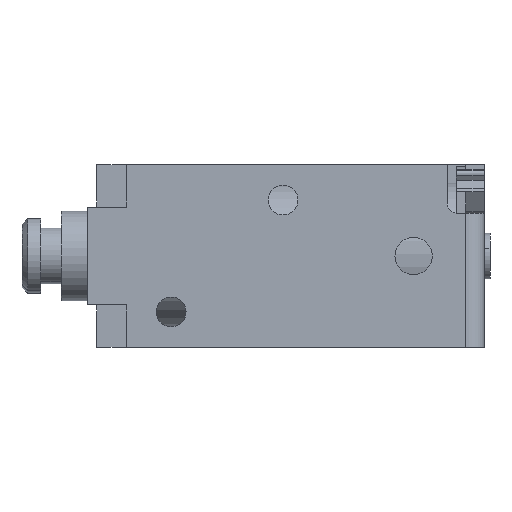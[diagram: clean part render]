
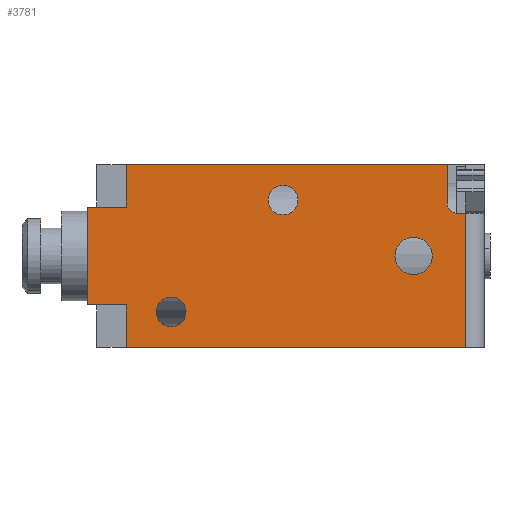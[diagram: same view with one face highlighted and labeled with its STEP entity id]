
A CAD part, left-side view. The second image highlights one B-rep face of the part: STEP entity #3781.
In plain terms, the highlighted planar face has unit normal (-1, 0, 0) as drawn and (0, 0, -1) by its records, which use the part's own axes.
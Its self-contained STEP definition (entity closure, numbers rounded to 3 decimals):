
#153 = DIRECTION ( 'NONE',  ( 0., 0., -1. ) ) ;
#193 = AXIS2_PLACEMENT_3D ( 'NONE', #3233, #1051, #3599 ) ;
#194 = VERTEX_POINT ( 'NONE', #3569 ) ;
#210 = CARTESIAN_POINT ( 'NONE',  ( -4.9, -6.458, -10.8 ) ) ;
#219 = CIRCLE ( 'NONE', #4243, 0.8 ) ;
#365 = VECTOR ( 'NONE', #2684, 1000. ) ;
#395 = PLANE ( 'NONE',  #2160 ) ;
#412 = CARTESIAN_POINT ( 'NONE',  ( -2.3, -6.458, -10.8 ) ) ;
#416 = VERTEX_POINT ( 'NONE', #1755 ) ;
#418 = VECTOR ( 'NONE', #4314, 1000. ) ;
#470 = EDGE_LOOP ( 'NONE', ( #3900, #1112, #4142, #1363, #2089, #762, #1146, #1171, #880, #4080, #2267 ) ) ;
#474 = LINE ( 'NONE', #2326, #365 ) ;
#587 = LINE ( 'NONE', #2924, #4380 ) ;
#645 = CARTESIAN_POINT ( 'NONE',  ( -4.9, 12.842, -10.8 ) ) ;
#750 = FACE_OUTER_BOUND ( 'NONE', #470, .T. ) ;
#762 = ORIENTED_EDGE ( 'NONE', *, *, #2892, .F. ) ;
#770 = DIRECTION ( 'NONE',  ( -1., 0., 0. ) ) ;
#771 = CIRCLE ( 'NONE', #193, 0.8 ) ;
#833 = DIRECTION ( 'NONE',  ( 0., 0., -1. ) ) ;
#854 = EDGE_CURVE ( 'NONE', #4107, #2577, #3698, .T. ) ;
#880 = ORIENTED_EDGE ( 'NONE', *, *, #2410, .F. ) ;
#928 = EDGE_CURVE ( 'NONE', #4224, #4572, #4242, .T. ) ;
#1016 = VERTEX_POINT ( 'NONE', #2259 ) ;
#1049 = EDGE_CURVE ( 'NONE', #194, #416, #219, .T. ) ;
#1051 = DIRECTION ( 'NONE',  ( 0., 0., -1. ) ) ;
#1097 = LINE ( 'NONE', #210, #3901 ) ;
#1105 = ORIENTED_EDGE ( 'NONE', *, *, #4212, .F. ) ;
#1112 = ORIENTED_EDGE ( 'NONE', *, *, #3109, .T. ) ;
#1146 = ORIENTED_EDGE ( 'NONE', *, *, #4553, .F. ) ;
#1171 = ORIENTED_EDGE ( 'NONE', *, *, #4739, .F. ) ;
#1223 = EDGE_LOOP ( 'NONE', ( #1105, #4254 ) ) ;
#1237 = EDGE_CURVE ( 'NONE', #4224, #2907, #3066, .T. ) ;
#1332 = AXIS2_PLACEMENT_3D ( 'NONE', #1343, #3904, #1710 ) ;
#1343 = CARTESIAN_POINT ( 'NONE',  ( -3., 2.342, -10.8 ) ) ;
#1353 = CARTESIAN_POINT ( 'NONE',  ( -3.8, 2.342, -10.8 ) ) ;
#1363 = ORIENTED_EDGE ( 'NONE', *, *, #1237, .T. ) ;
#1376 = ORIENTED_EDGE ( 'NONE', *, *, #1562, .F. ) ;
#1420 = VECTOR ( 'NONE', #4202, 1000. ) ;
#1486 = DIRECTION ( 'NONE',  ( 1., 0., 0. ) ) ;
#1495 = VECTOR ( 'NONE', #4364, 1000. ) ;
#1529 = LINE ( 'NONE', #1994, #1420 ) ;
#1562 = EDGE_CURVE ( 'NONE', #416, #194, #2986, .T. ) ;
#1600 = CARTESIAN_POINT ( 'NONE',  ( -2.625, 12.842, -10.8 ) ) ;
#1710 = DIRECTION ( 'NONE',  ( -1., 0., 0. ) ) ;
#1712 = CIRCLE ( 'NONE', #1332, 0.8 ) ;
#1714 = FACE_BOUND ( 'NONE', #3609, .T. ) ;
#1755 = CARTESIAN_POINT ( 'NONE',  ( 2.2, 8.342, -10.8 ) ) ;
#1836 = VECTOR ( 'NONE', #4556, 1000. ) ;
#1859 = VERTEX_POINT ( 'NONE', #2847 ) ;
#1874 = DIRECTION ( 'NONE',  ( 1., 0., 0. ) ) ;
#1899 = EDGE_CURVE ( 'NONE', #1859, #2857, #771, .T. ) ;
#1994 = CARTESIAN_POINT ( 'NONE',  ( -2.625, 10.742, -10.8 ) ) ;
#2063 = CARTESIAN_POINT ( 'NONE',  ( -2.3, -6.958, -10.8 ) ) ;
#2089 = ORIENTED_EDGE ( 'NONE', *, *, #2757, .F. ) ;
#2100 = CARTESIAN_POINT ( 'NONE',  ( -2.625, 12.842, -10.8 ) ) ;
#2117 = EDGE_CURVE ( 'NONE', #2577, #4107, #4632, .T. ) ;
#2135 = CARTESIAN_POINT ( 'NONE',  ( 4.9, 12.842, -10.8 ) ) ;
#2142 = DIRECTION ( 'NONE',  ( 0., 0., 1. ) ) ;
#2157 = CARTESIAN_POINT ( 'NONE',  ( -2.8, -6.958, -10.8 ) ) ;
#2160 = AXIS2_PLACEMENT_3D ( 'NONE', #4041, #3672, #1486 ) ;
#2177 = CARTESIAN_POINT ( 'NONE',  ( 2.625, 12.842, -10.8 ) ) ;
#2218 = CARTESIAN_POINT ( 'NONE',  ( 4.9, -7.458, -10.8 ) ) ;
#2259 = CARTESIAN_POINT ( 'NONE',  ( 2.625, 10.742, -10.8 ) ) ;
#2267 = ORIENTED_EDGE ( 'NONE', *, *, #2713, .F. ) ;
#2326 = CARTESIAN_POINT ( 'NONE',  ( 2.625, 10.742, -10.8 ) ) ;
#2332 = CARTESIAN_POINT ( 'NONE',  ( 3., 8.342, -10.8 ) ) ;
#2390 = DIRECTION ( 'NONE',  ( 1., 0., 0. ) ) ;
#2410 = EDGE_CURVE ( 'NONE', #3706, #4022, #3437, .T. ) ;
#2474 = CARTESIAN_POINT ( 'NONE',  ( -2.8, -6.458, -10.8 ) ) ;
#2519 = VECTOR ( 'NONE', #770, 1000. ) ;
#2521 = VERTEX_POINT ( 'NONE', #4044 ) ;
#2577 = VERTEX_POINT ( 'NONE', #2963 ) ;
#2660 = AXIS2_PLACEMENT_3D ( 'NONE', #2157, #2142, #1874 ) ;
#2682 = FACE_BOUND ( 'NONE', #2975, .T. ) ;
#2684 = DIRECTION ( 'NONE',  ( -1., 0., 0. ) ) ;
#2692 = DIRECTION ( 'NONE',  ( -1., 0., 0. ) ) ;
#2701 = AXIS2_PLACEMENT_3D ( 'NONE', #3000, #833, #3371 ) ;
#2713 = EDGE_CURVE ( 'NONE', #3511, #1016, #474, .T. ) ;
#2757 = EDGE_CURVE ( 'NONE', #3254, #2907, #1097, .T. ) ;
#2774 = CARTESIAN_POINT ( 'NONE',  ( -2.625, 10.742, -10.8 ) ) ;
#2799 = LINE ( 'NONE', #4171, #1836 ) ;
#2847 = CARTESIAN_POINT ( 'NONE',  ( -2.2, 2.342, -10.8 ) ) ;
#2857 = VERTEX_POINT ( 'NONE', #1353 ) ;
#2892 = EDGE_CURVE ( 'NONE', #2521, #3254, #3315, .T. ) ;
#2907 = VERTEX_POINT ( 'NONE', #2474 ) ;
#2923 = ORIENTED_EDGE ( 'NONE', *, *, #854, .F. ) ;
#2924 = CARTESIAN_POINT ( 'NONE',  ( 2.625, 12.842, -10.8 ) ) ;
#2963 = CARTESIAN_POINT ( 'NONE',  ( -1., -4.658, -10.8 ) ) ;
#2975 = EDGE_LOOP ( 'NONE', ( #3222, #2923 ) ) ;
#2986 = CIRCLE ( 'NONE', #4051, 0.8 ) ;
#3000 = CARTESIAN_POINT ( 'NONE',  ( 0., -4.658, -10.8 ) ) ;
#3066 = CIRCLE ( 'NONE', #2660, 0.5 ) ;
#3095 = EDGE_CURVE ( 'NONE', #1016, #3706, #587, .T. ) ;
#3109 = EDGE_CURVE ( 'NONE', #4708, #4572, #3372, .T. ) ;
#3191 = DIRECTION ( 'NONE',  ( 0., -1., 0. ) ) ;
#3222 = ORIENTED_EDGE ( 'NONE', *, *, #2117, .F. ) ;
#3233 = CARTESIAN_POINT ( 'NONE',  ( -3., 2.342, -10.8 ) ) ;
#3254 = VERTEX_POINT ( 'NONE', #3759 ) ;
#3277 = EDGE_CURVE ( 'NONE', #3511, #4708, #2799, .T. ) ;
#3315 = LINE ( 'NONE', #645, #418 ) ;
#3339 = ORIENTED_EDGE ( 'NONE', *, *, #1049, .F. ) ;
#3371 = DIRECTION ( 'NONE',  ( -1., 0., 0. ) ) ;
#3372 = LINE ( 'NONE', #2218, #2519 ) ;
#3437 = LINE ( 'NONE', #2135, #1495 ) ;
#3464 = CARTESIAN_POINT ( 'NONE',  ( 1., -4.658, -10.8 ) ) ;
#3479 = VERTEX_POINT ( 'NONE', #2774 ) ;
#3511 = VERTEX_POINT ( 'NONE', #4291 ) ;
#3524 = VECTOR ( 'NONE', #3191, 1000. ) ;
#3530 = CARTESIAN_POINT ( 'NONE',  ( 4.9, -7.458, -10.8 ) ) ;
#3569 = CARTESIAN_POINT ( 'NONE',  ( 3.8, 8.342, -10.8 ) ) ;
#3599 = DIRECTION ( 'NONE',  ( -1., 0., 0. ) ) ;
#3609 = EDGE_LOOP ( 'NONE', ( #1376, #3339 ) ) ;
#3672 = DIRECTION ( 'NONE',  ( 0., 0., 1. ) ) ;
#3698 = CIRCLE ( 'NONE', #4341, 1. ) ;
#3706 = VERTEX_POINT ( 'NONE', #2177 ) ;
#3759 = CARTESIAN_POINT ( 'NONE',  ( -4.9, -6.458, -10.8 ) ) ;
#3781 = ADVANCED_FACE ( 'NONE', ( #2682, #1714, #4675, #750 ), #395, .F. ) ;
#3900 = ORIENTED_EDGE ( 'NONE', *, *, #3277, .T. ) ;
#3901 = VECTOR ( 'NONE', #2390, 1000. ) ;
#3904 = DIRECTION ( 'NONE',  ( 0., 0., -1. ) ) ;
#3992 = DIRECTION ( 'NONE',  ( -1., 0., 0. ) ) ;
#4022 = VERTEX_POINT ( 'NONE', #1600 ) ;
#4041 = CARTESIAN_POINT ( 'NONE',  ( 4.9, 12.842, -10.8 ) ) ;
#4044 = CARTESIAN_POINT ( 'NONE',  ( -4.9, 10.742, -10.8 ) ) ;
#4051 = AXIS2_PLACEMENT_3D ( 'NONE', #2332, #153, #2692 ) ;
#4054 = DIRECTION ( 'NONE',  ( 0., 0., -1. ) ) ;
#4071 = CARTESIAN_POINT ( 'NONE',  ( 3., 8.342, -10.8 ) ) ;
#4080 = ORIENTED_EDGE ( 'NONE', *, *, #3095, .F. ) ;
#4107 = VERTEX_POINT ( 'NONE', #3464 ) ;
#4125 = DIRECTION ( 'NONE',  ( -1., 0., 0. ) ) ;
#4142 = ORIENTED_EDGE ( 'NONE', *, *, #928, .F. ) ;
#4171 = CARTESIAN_POINT ( 'NONE',  ( 4.9, 12.842, -10.8 ) ) ;
#4202 = DIRECTION ( 'NONE',  ( -1., 0., 0. ) ) ;
#4212 = EDGE_CURVE ( 'NONE', #2857, #1859, #1712, .T. ) ;
#4216 = CARTESIAN_POINT ( 'NONE',  ( -2.3, -7.458, -10.8 ) ) ;
#4224 = VERTEX_POINT ( 'NONE', #2063 ) ;
#4242 = LINE ( 'NONE', #412, #4362 ) ;
#4243 = AXIS2_PLACEMENT_3D ( 'NONE', #4071, #4054, #3992 ) ;
#4254 = ORIENTED_EDGE ( 'NONE', *, *, #1899, .F. ) ;
#4291 = CARTESIAN_POINT ( 'NONE',  ( 4.9, 10.742, -10.8 ) ) ;
#4314 = DIRECTION ( 'NONE',  ( 0., -1., 0. ) ) ;
#4341 = AXIS2_PLACEMENT_3D ( 'NONE', #4700, #4719, #4125 ) ;
#4362 = VECTOR ( 'NONE', #4502, 1000. ) ;
#4364 = DIRECTION ( 'NONE',  ( -1., 0., 0. ) ) ;
#4380 = VECTOR ( 'NONE', #4417, 1000. ) ;
#4417 = DIRECTION ( 'NONE',  ( 0., 1., 0. ) ) ;
#4502 = DIRECTION ( 'NONE',  ( 0., -1., 0. ) ) ;
#4544 = LINE ( 'NONE', #2100, #3524 ) ;
#4553 = EDGE_CURVE ( 'NONE', #3479, #2521, #1529, .T. ) ;
#4556 = DIRECTION ( 'NONE',  ( 0., -1., 0. ) ) ;
#4572 = VERTEX_POINT ( 'NONE', #4216 ) ;
#4632 = CIRCLE ( 'NONE', #2701, 1. ) ;
#4675 = FACE_BOUND ( 'NONE', #1223, .T. ) ;
#4700 = CARTESIAN_POINT ( 'NONE',  ( 0., -4.658, -10.8 ) ) ;
#4708 = VERTEX_POINT ( 'NONE', #3530 ) ;
#4719 = DIRECTION ( 'NONE',  ( 0., 0., -1. ) ) ;
#4739 = EDGE_CURVE ( 'NONE', #4022, #3479, #4544, .T. ) ;
